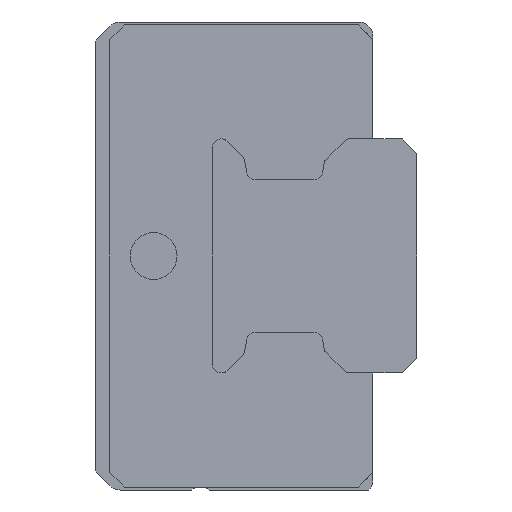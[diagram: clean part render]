
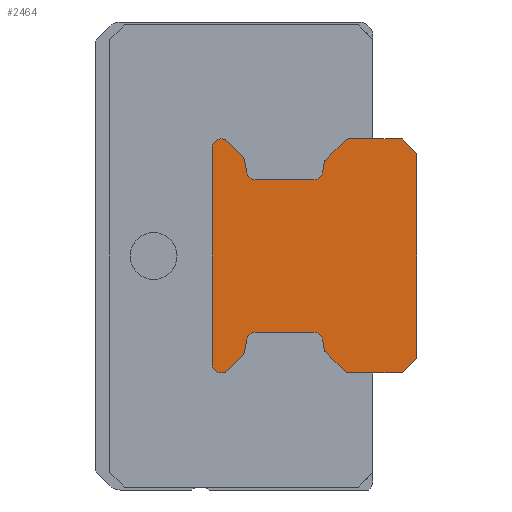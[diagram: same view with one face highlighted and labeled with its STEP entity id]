
A CAD part, left-side view. The second image highlights one B-rep face of the part: STEP entity #2464.
In plain terms, the highlighted planar face has unit normal (-1, 0, 0).
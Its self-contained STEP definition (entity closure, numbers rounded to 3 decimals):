
#43=CIRCLE('',#2597,0.15);
#45=CIRCLE('',#2601,0.15);
#47=CIRCLE('',#2605,0.3);
#49=CIRCLE('',#2609,0.3);
#51=CIRCLE('',#2613,0.15);
#53=CIRCLE('',#2617,0.15);
#59=CIRCLE('',#2629,0.15);
#61=CIRCLE('',#2633,0.15);
#63=CIRCLE('',#2637,0.3);
#65=CIRCLE('',#2641,0.3);
#67=CIRCLE('',#2645,0.15);
#69=CIRCLE('',#2649,0.15);
#71=CIRCLE('',#2653,0.3);
#77=CIRCLE('',#2661,0.3);
#350=ORIENTED_EDGE('',*,*,#890,.F.);
#351=ORIENTED_EDGE('',*,*,#992,.F.);
#352=ORIENTED_EDGE('',*,*,#989,.F.);
#353=ORIENTED_EDGE('',*,*,#982,.F.);
#354=ORIENTED_EDGE('',*,*,#979,.F.);
#355=ORIENTED_EDGE('',*,*,#976,.F.);
#356=ORIENTED_EDGE('',*,*,#973,.F.);
#357=ORIENTED_EDGE('',*,*,#970,.F.);
#358=ORIENTED_EDGE('',*,*,#967,.F.);
#359=ORIENTED_EDGE('',*,*,#964,.T.);
#360=ORIENTED_EDGE('',*,*,#961,.F.);
#361=ORIENTED_EDGE('',*,*,#958,.T.);
#362=ORIENTED_EDGE('',*,*,#955,.F.);
#363=ORIENTED_EDGE('',*,*,#952,.F.);
#364=ORIENTED_EDGE('',*,*,#949,.F.);
#365=ORIENTED_EDGE('',*,*,#946,.F.);
#366=ORIENTED_EDGE('',*,*,#943,.F.);
#367=ORIENTED_EDGE('',*,*,#940,.F.);
#368=ORIENTED_EDGE('',*,*,#937,.F.);
#369=ORIENTED_EDGE('',*,*,#930,.F.);
#370=ORIENTED_EDGE('',*,*,#927,.F.);
#371=ORIENTED_EDGE('',*,*,#924,.F.);
#372=ORIENTED_EDGE('',*,*,#921,.F.);
#373=ORIENTED_EDGE('',*,*,#918,.F.);
#374=ORIENTED_EDGE('',*,*,#915,.F.);
#375=ORIENTED_EDGE('',*,*,#912,.T.);
#376=ORIENTED_EDGE('',*,*,#909,.F.);
#377=ORIENTED_EDGE('',*,*,#906,.T.);
#378=ORIENTED_EDGE('',*,*,#903,.F.);
#379=ORIENTED_EDGE('',*,*,#900,.F.);
#380=ORIENTED_EDGE('',*,*,#897,.F.);
#381=ORIENTED_EDGE('',*,*,#894,.F.);
#890=EDGE_CURVE('',#1244,#1245,#1490,.T.);
#894=EDGE_CURVE('',#1245,#1248,#43,.T.);
#897=EDGE_CURVE('',#1248,#1250,#1495,.T.);
#900=EDGE_CURVE('',#1250,#1252,#45,.T.);
#903=EDGE_CURVE('',#1252,#1254,#1499,.T.);
#906=EDGE_CURVE('',#1256,#1254,#47,.T.);
#909=EDGE_CURVE('',#1256,#1258,#1503,.T.);
#912=EDGE_CURVE('',#1260,#1258,#49,.T.);
#915=EDGE_CURVE('',#1260,#1262,#1507,.T.);
#918=EDGE_CURVE('',#1262,#1264,#51,.T.);
#921=EDGE_CURVE('',#1264,#1266,#1511,.T.);
#924=EDGE_CURVE('',#1266,#1268,#53,.T.);
#927=EDGE_CURVE('',#1268,#1270,#1515,.T.);
#930=EDGE_CURVE('',#1270,#1272,#1518,.T.);
#937=EDGE_CURVE('',#1272,#1278,#1521,.T.);
#940=EDGE_CURVE('',#1278,#1280,#1524,.T.);
#943=EDGE_CURVE('',#1280,#1282,#1527,.T.);
#946=EDGE_CURVE('',#1282,#1284,#59,.T.);
#949=EDGE_CURVE('',#1284,#1286,#1531,.T.);
#952=EDGE_CURVE('',#1286,#1288,#61,.T.);
#955=EDGE_CURVE('',#1288,#1290,#1535,.T.);
#958=EDGE_CURVE('',#1292,#1290,#63,.T.);
#961=EDGE_CURVE('',#1292,#1294,#1539,.T.);
#964=EDGE_CURVE('',#1296,#1294,#65,.T.);
#967=EDGE_CURVE('',#1296,#1298,#1543,.T.);
#970=EDGE_CURVE('',#1298,#1300,#67,.T.);
#973=EDGE_CURVE('',#1300,#1302,#1547,.T.);
#976=EDGE_CURVE('',#1302,#1304,#69,.T.);
#979=EDGE_CURVE('',#1304,#1306,#1551,.T.);
#982=EDGE_CURVE('',#1306,#1308,#71,.T.);
#989=EDGE_CURVE('',#1308,#1314,#1555,.T.);
#992=EDGE_CURVE('',#1314,#1244,#77,.T.);
#1244=VERTEX_POINT('',#3559);
#1245=VERTEX_POINT('',#3560);
#1248=VERTEX_POINT('',#3568);
#1250=VERTEX_POINT('',#3574);
#1252=VERTEX_POINT('',#3580);
#1254=VERTEX_POINT('',#3586);
#1256=VERTEX_POINT('',#3592);
#1258=VERTEX_POINT('',#3598);
#1260=VERTEX_POINT('',#3604);
#1262=VERTEX_POINT('',#3610);
#1264=VERTEX_POINT('',#3616);
#1266=VERTEX_POINT('',#3622);
#1268=VERTEX_POINT('',#3628);
#1270=VERTEX_POINT('',#3634);
#1272=VERTEX_POINT('',#3640);
#1278=VERTEX_POINT('',#3654);
#1280=VERTEX_POINT('',#3660);
#1282=VERTEX_POINT('',#3666);
#1284=VERTEX_POINT('',#3672);
#1286=VERTEX_POINT('',#3678);
#1288=VERTEX_POINT('',#3684);
#1290=VERTEX_POINT('',#3690);
#1292=VERTEX_POINT('',#3696);
#1294=VERTEX_POINT('',#3702);
#1296=VERTEX_POINT('',#3708);
#1298=VERTEX_POINT('',#3714);
#1300=VERTEX_POINT('',#3720);
#1302=VERTEX_POINT('',#3726);
#1304=VERTEX_POINT('',#3732);
#1306=VERTEX_POINT('',#3738);
#1308=VERTEX_POINT('',#3744);
#1314=VERTEX_POINT('',#3758);
#1490=LINE('',#3558,#1750);
#1495=LINE('',#3573,#1755);
#1499=LINE('',#3585,#1759);
#1503=LINE('',#3597,#1763);
#1507=LINE('',#3609,#1767);
#1511=LINE('',#3621,#1771);
#1515=LINE('',#3633,#1775);
#1518=LINE('',#3639,#1778);
#1521=LINE('',#3653,#1781);
#1524=LINE('',#3659,#1784);
#1527=LINE('',#3665,#1787);
#1531=LINE('',#3677,#1791);
#1535=LINE('',#3689,#1795);
#1539=LINE('',#3701,#1799);
#1543=LINE('',#3713,#1803);
#1547=LINE('',#3725,#1807);
#1551=LINE('',#3737,#1811);
#1555=LINE('',#3757,#1815);
#1750=VECTOR('',#2832,1000.);
#1755=VECTOR('',#2845,1000.);
#1759=VECTOR('',#2857,1000.);
#1763=VECTOR('',#2869,1000.);
#1767=VECTOR('',#2881,1000.);
#1771=VECTOR('',#2893,1000.);
#1775=VECTOR('',#2905,1000.);
#1778=VECTOR('',#2910,1000.);
#1781=VECTOR('',#2923,1000.);
#1784=VECTOR('',#2928,1000.);
#1787=VECTOR('',#2933,1000.);
#1791=VECTOR('',#2945,1000.);
#1795=VECTOR('',#2957,1000.);
#1799=VECTOR('',#2969,1000.);
#1803=VECTOR('',#2981,1000.);
#1807=VECTOR('',#2993,1000.);
#1811=VECTOR('',#3005,1000.);
#1815=VECTOR('',#3025,1000.);
#2051=EDGE_LOOP('',(#350,#351,#352,#353,#354,#355,#356,#357,#358,#359,#360,
#361,#362,#363,#364,#365,#366,#367,#368,#369,#370,#371,#372,#373,#374,#375,
#376,#377,#378,#379,#380,#381));
#2217=FACE_BOUND('',#2051,.T.);
#2363=PLANE('',#2664);
#2464=ADVANCED_FACE('',(#2217),#2363,.F.);
#2597=AXIS2_PLACEMENT_3D('',#3567,#2838,#2839);
#2601=AXIS2_PLACEMENT_3D('',#3579,#2850,#2851);
#2605=AXIS2_PLACEMENT_3D('',#3591,#2862,#2863);
#2609=AXIS2_PLACEMENT_3D('',#3603,#2874,#2875);
#2613=AXIS2_PLACEMENT_3D('',#3615,#2886,#2887);
#2617=AXIS2_PLACEMENT_3D('',#3627,#2898,#2899);
#2629=AXIS2_PLACEMENT_3D('',#3671,#2938,#2939);
#2633=AXIS2_PLACEMENT_3D('',#3683,#2950,#2951);
#2637=AXIS2_PLACEMENT_3D('',#3695,#2962,#2963);
#2641=AXIS2_PLACEMENT_3D('',#3707,#2974,#2975);
#2645=AXIS2_PLACEMENT_3D('',#3719,#2986,#2987);
#2649=AXIS2_PLACEMENT_3D('',#3731,#2998,#2999);
#2653=AXIS2_PLACEMENT_3D('',#3743,#3010,#3011);
#2661=AXIS2_PLACEMENT_3D('',#3763,#3030,#3031);
#2664=AXIS2_PLACEMENT_3D('',#3766,#3036,#3037);
#2832=DIRECTION('',(0.,-1.,0.));
#2838=DIRECTION('',(1.,0.,0.));
#2839=DIRECTION('',(0.,0.,-1.));
#2845=DIRECTION('',(0.,-0.707,-0.707));
#2850=DIRECTION('',(1.,0.,0.));
#2851=DIRECTION('',(0.,0.,-1.));
#2857=DIRECTION('',(0.,-0.174,-0.985));
#2862=DIRECTION('',(1.,0.,0.));
#2863=DIRECTION('',(0.,0.,-1.));
#2869=DIRECTION('',(0.,-1.,0.));
#2874=DIRECTION('',(1.,0.,0.));
#2875=DIRECTION('',(0.,0.,-1.));
#2881=DIRECTION('',(0.,-0.174,0.985));
#2886=DIRECTION('',(1.,0.,0.));
#2887=DIRECTION('',(0.,0.,-1.));
#2893=DIRECTION('',(0.,-0.707,0.707));
#2898=DIRECTION('',(1.,0.,0.));
#2899=DIRECTION('',(0.,0.,-1.));
#2905=DIRECTION('',(0.,-1.,0.));
#2910=DIRECTION('',(0.,-0.707,-0.707));
#2923=DIRECTION('',(0.,0.,-1.));
#2928=DIRECTION('',(0.,0.707,-0.707));
#2933=DIRECTION('',(0.,1.,0.));
#2938=DIRECTION('',(1.,0.,0.));
#2939=DIRECTION('',(0.,0.,-1.));
#2945=DIRECTION('',(0.,0.707,0.707));
#2950=DIRECTION('',(1.,0.,0.));
#2951=DIRECTION('',(0.,0.,-1.));
#2957=DIRECTION('',(0.,0.174,0.985));
#2962=DIRECTION('',(1.,0.,0.));
#2963=DIRECTION('',(0.,0.,-1.));
#2969=DIRECTION('',(0.,1.,0.));
#2974=DIRECTION('',(1.,0.,0.));
#2975=DIRECTION('',(0.,0.,-1.));
#2981=DIRECTION('',(0.,0.174,-0.985));
#2986=DIRECTION('',(1.,0.,0.));
#2987=DIRECTION('',(0.,0.,-1.));
#2993=DIRECTION('',(0.,0.707,-0.707));
#2998=DIRECTION('',(1.,0.,0.));
#2999=DIRECTION('',(0.,0.,-1.));
#3005=DIRECTION('',(0.,1.,0.));
#3010=DIRECTION('',(1.,0.,0.));
#3011=DIRECTION('',(0.,0.,-1.));
#3025=DIRECTION('',(0.,0.,1.));
#3030=DIRECTION('',(1.,0.,0.));
#3031=DIRECTION('',(0.,0.,-1.));
#3036=DIRECTION('',(1.,0.,0.));
#3037=DIRECTION('',(0.,0.,-1.));
#3558=CARTESIAN_POINT('',(-10.,6.7,4.));
#3559=CARTESIAN_POINT('',(-10.,6.7,4.));
#3560=CARTESIAN_POINT('',(-10.,6.632,4.));
#3567=CARTESIAN_POINT('',(-10.,6.632,3.85));
#3568=CARTESIAN_POINT('',(-10.,6.526,3.956));
#3573=CARTESIAN_POINT('',(-10.,6.526,3.956));
#3574=CARTESIAN_POINT('',(-10.,5.932,3.362));
#3579=CARTESIAN_POINT('',(-10.,6.038,3.256));
#3580=CARTESIAN_POINT('',(-10.,5.89,3.282));
#3585=CARTESIAN_POINT('',(-10.,5.89,3.282));
#3586=CARTESIAN_POINT('',(-10.,5.814,2.848));
#3591=CARTESIAN_POINT('',(-10.,5.518,2.9));
#3592=CARTESIAN_POINT('',(-10.,5.518,2.6));
#3597=CARTESIAN_POINT('',(-10.,5.518,2.6));
#3598=CARTESIAN_POINT('',(-10.,3.522,2.6));
#3603=CARTESIAN_POINT('',(-10.,3.522,2.9));
#3604=CARTESIAN_POINT('',(-10.,3.226,2.848));
#3609=CARTESIAN_POINT('',(-10.,3.226,2.848));
#3610=CARTESIAN_POINT('',(-10.,3.165,3.197));
#3615=CARTESIAN_POINT('',(-10.,3.017,3.171));
#3616=CARTESIAN_POINT('',(-10.,3.123,3.277));
#3621=CARTESIAN_POINT('',(-10.,3.123,3.277));
#3622=CARTESIAN_POINT('',(-10.,2.444,3.956));
#3627=CARTESIAN_POINT('',(-10.,2.338,3.85));
#3628=CARTESIAN_POINT('',(-10.,2.338,4.));
#3633=CARTESIAN_POINT('',(-10.,2.338,4.));
#3634=CARTESIAN_POINT('',(-10.,0.5,4.));
#3639=CARTESIAN_POINT('',(-10.,0.5,4.));
#3640=CARTESIAN_POINT('',(-10.,0.,3.5));
#3653=CARTESIAN_POINT('',(-10.,0.,3.5));
#3654=CARTESIAN_POINT('',(-10.,0.,-3.5));
#3659=CARTESIAN_POINT('',(-10.,0.,-3.5));
#3660=CARTESIAN_POINT('',(-10.,0.5,-4.));
#3665=CARTESIAN_POINT('',(-10.,0.5,-4.));
#3666=CARTESIAN_POINT('',(-10.,2.338,-4.));
#3671=CARTESIAN_POINT('',(-10.,2.338,-3.85));
#3672=CARTESIAN_POINT('',(-10.,2.444,-3.956));
#3677=CARTESIAN_POINT('',(-10.,2.444,-3.956));
#3678=CARTESIAN_POINT('',(-10.,3.123,-3.277));
#3683=CARTESIAN_POINT('',(-10.,3.017,-3.171));
#3684=CARTESIAN_POINT('',(-10.,3.165,-3.197));
#3689=CARTESIAN_POINT('',(-10.,3.165,-3.197));
#3690=CARTESIAN_POINT('',(-10.,3.226,-2.848));
#3695=CARTESIAN_POINT('',(-10.,3.522,-2.9));
#3696=CARTESIAN_POINT('',(-10.,3.522,-2.6));
#3701=CARTESIAN_POINT('',(-10.,3.522,-2.6));
#3702=CARTESIAN_POINT('',(-10.,5.518,-2.6));
#3707=CARTESIAN_POINT('',(-10.,5.518,-2.9));
#3708=CARTESIAN_POINT('',(-10.,5.814,-2.848));
#3713=CARTESIAN_POINT('',(-10.,5.814,-2.848));
#3714=CARTESIAN_POINT('',(-10.,5.89,-3.282));
#3719=CARTESIAN_POINT('',(-10.,6.038,-3.256));
#3720=CARTESIAN_POINT('',(-10.,5.932,-3.362));
#3725=CARTESIAN_POINT('',(-10.,5.932,-3.362));
#3726=CARTESIAN_POINT('',(-10.,6.526,-3.956));
#3731=CARTESIAN_POINT('',(-10.,6.632,-3.85));
#3732=CARTESIAN_POINT('',(-10.,6.632,-4.));
#3737=CARTESIAN_POINT('',(-10.,6.632,-4.));
#3738=CARTESIAN_POINT('',(-10.,6.7,-4.));
#3743=CARTESIAN_POINT('',(-10.,6.7,-3.7));
#3744=CARTESIAN_POINT('',(-10.,7.,-3.7));
#3757=CARTESIAN_POINT('',(-10.,7.,-3.7));
#3758=CARTESIAN_POINT('',(-10.,7.,3.7));
#3763=CARTESIAN_POINT('',(-10.,6.7,3.7));
#3766=CARTESIAN_POINT('',(-10.,6.632,3.85));
